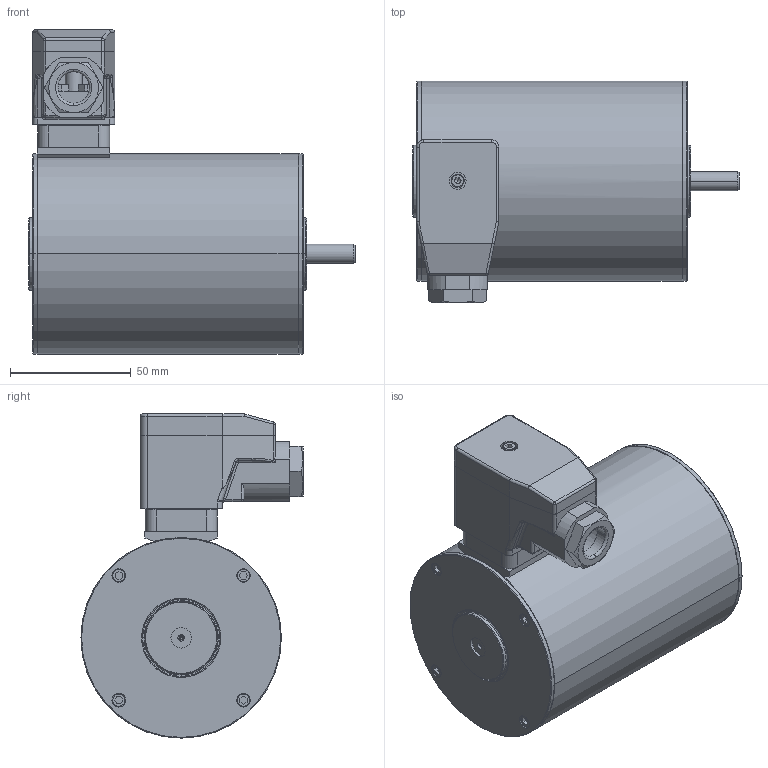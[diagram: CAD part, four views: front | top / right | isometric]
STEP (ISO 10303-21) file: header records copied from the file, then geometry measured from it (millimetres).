
FILE_DESCRIPTION (( 'STEP AP214' ), '1' );
FILE_NAME ('D862.STEP', '2012-04-16T12:32:02', ( ' ' ), ( '' ), 'SwSTEP 2.0', 'SolidWorks 2010', '' );
FILE_SCHEMA (( 'AUTOMOTIVE_DESIGN' ));
Length unit declared in the file: millimetre
Products named in the file (9): Hirschmann_Einsatz-GDME3020; 951120054; Hirschmann_GDME3020; 935282005_ﾘ83; Hirschmann_GSAZ-300; 918081021; Hirschmann_GDM 3-21_K2-K22-Dichtung f.Dose; D862
Assembly tree (8 placements, depth 3):
  D862
    D862
    918081021
      Hirschmann_Einsatz-GDME3020
      935282005_ﾘ83
      Hirschmann_GDME3020
      Hirschmann_GDM 3-21_K2-K22-Dichtung f.Dose
      Hirschmann_GSAZ-300
    951120054
Bounding box: 135 x 91.99 x 134.23 mm (x, y, z)
Volume: 663760.9 mm3; surface area: 75120.7 mm2
Topology: 12 solids, 12 shells, 811 faces, 2059 edges, 1316 vertices
Faces by surface type: plane 426, cylinder 271, cone 68, torus 22, bspline 16, sphere 8
Entity records: 27600 total; most frequent: CARTESIAN_POINT 5692, DIRECTION 4197, ORIENTED_EDGE 4082, EDGE_CURVE 2041, AXIS2_PLACEMENT_3D 1445, VERTEX_POINT 1316, VECTOR 1307, LINE 1307
